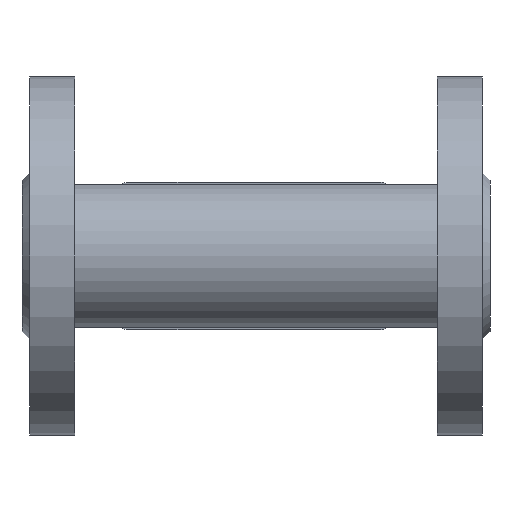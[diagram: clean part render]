
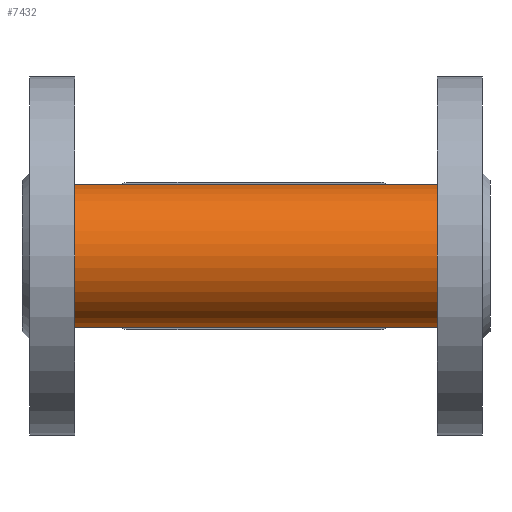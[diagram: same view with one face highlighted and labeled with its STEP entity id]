
A CAD part, front view. The second image highlights one B-rep face of the part: STEP entity #7432.
In plain terms, the highlighted cylindrical face has radius 19 mm (diameter 38 mm), a full revolution.
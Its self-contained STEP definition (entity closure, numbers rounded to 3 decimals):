
#2098=LINE('',#36052,#4078);
#2099=LINE('',#36058,#4079);
#4078=VECTOR('',#29445,1.);
#4079=VECTOR('',#29450,1.);
#6297=ELLIPSE('',#27241,26.87,19.);
#6298=ELLIPSE('',#27242,26.87,19.);
#6299=ELLIPSE('',#27243,26.87,19.);
#6300=ELLIPSE('',#27244,26.87,19.);
#6311=CYLINDRICAL_SURFACE('',#27247,19.);
#6614=FACE_BOUND('',#11093,.T.);
#6615=FACE_BOUND('',#11094,.T.);
#6616=FACE_BOUND('',#11095,.T.);
#7432=ADVANCED_FACE('',(#6614,#6615,#6616),#6311,.T.);
#11093=EDGE_LOOP('',(#13137,#13138,#13139,#13140,#13141,#13142));
#11094=EDGE_LOOP('',(#13143));
#11095=EDGE_LOOP('',(#13144));
#13137=ORIENTED_EDGE('',*,*,#22774,.T.);
#13138=ORIENTED_EDGE('',*,*,#22775,.T.);
#13139=ORIENTED_EDGE('',*,*,#22776,.T.);
#13140=ORIENTED_EDGE('',*,*,#22777,.T.);
#13141=ORIENTED_EDGE('',*,*,#22778,.T.);
#13142=ORIENTED_EDGE('',*,*,#22779,.T.);
#13143=ORIENTED_EDGE('',*,*,#22780,.F.);
#13144=ORIENTED_EDGE('',*,*,#22781,.F.);
#20332=VERTEX_POINT('',#36048);
#20333=VERTEX_POINT('',#36049);
#20334=VERTEX_POINT('',#36051);
#20335=VERTEX_POINT('',#36053);
#20336=VERTEX_POINT('',#36055);
#20337=VERTEX_POINT('',#36057);
#20338=VERTEX_POINT('',#36060);
#20339=VERTEX_POINT('',#36062);
#22774=EDGE_CURVE('',#20332,#20333,#6297,.T.);
#22775=EDGE_CURVE('',#20333,#20334,#6298,.T.);
#22776=EDGE_CURVE('',#20334,#20335,#2098,.T.);
#22777=EDGE_CURVE('',#20335,#20336,#6299,.T.);
#22778=EDGE_CURVE('',#20336,#20337,#6300,.T.);
#22779=EDGE_CURVE('',#20337,#20332,#2099,.T.);
#22780=EDGE_CURVE('',#20338,#20338,#26372,.T.);
#22781=EDGE_CURVE('',#20339,#20339,#26373,.T.);
#26372=CIRCLE('',#27245,19.);
#26373=CIRCLE('',#27246,19.);
#27241=AXIS2_PLACEMENT_3D('',#36047,#29441,#29442);
#27242=AXIS2_PLACEMENT_3D('',#36050,#29443,#29444);
#27243=AXIS2_PLACEMENT_3D('',#36054,#29446,#29447);
#27244=AXIS2_PLACEMENT_3D('',#36056,#29448,#29449);
#27245=AXIS2_PLACEMENT_3D('',#36059,#29451,#29452);
#27246=AXIS2_PLACEMENT_3D('',#36061,#29453,#29454);
#27247=AXIS2_PLACEMENT_3D('',#36063,#29455,#29456);
#29441=DIRECTION('',(-0.707,-0.707,0.));
#29442=DIRECTION('',(-0.707,0.707,0.));
#29443=DIRECTION('',(-0.707,-0.707,0.));
#29444=DIRECTION('',(-0.707,0.707,0.));
#29445=DIRECTION('',(1.,0.,0.));
#29446=DIRECTION('',(0.707,-0.707,0.));
#29447=DIRECTION('',(-0.707,-0.707,0.));
#29448=DIRECTION('',(0.707,-0.707,0.));
#29449=DIRECTION('',(-0.707,-0.707,0.));
#29450=DIRECTION('',(-1.,0.,0.));
#29451=DIRECTION('',(1.,0.,0.));
#29452=DIRECTION('',(0.,0.,1.));
#29453=DIRECTION('',(-1.,0.,0.));
#29454=DIRECTION('',(0.,0.,-1.));
#29455=DIRECTION('',(-1.,0.,0.));
#29456=DIRECTION('',(0.,0.,1.));
#36047=CARTESIAN_POINT('',(35.,-12.49,960.5));
#36048=CARTESIAN_POINT('',(20.,2.51,972.162));
#36049=CARTESIAN_POINT('',(16.,6.51,960.5));
#36050=CARTESIAN_POINT('',(35.,-12.49,960.5));
#36051=CARTESIAN_POINT('',(20.,2.51,948.838));
#36052=CARTESIAN_POINT('',(76.,2.51,948.838));
#36053=CARTESIAN_POINT('',(70.,2.51,948.838));
#36054=CARTESIAN_POINT('',(55.,-12.49,960.5));
#36055=CARTESIAN_POINT('',(74.,6.51,960.5));
#36056=CARTESIAN_POINT('',(55.,-12.49,960.5));
#36057=CARTESIAN_POINT('',(70.,2.51,972.162));
#36058=CARTESIAN_POINT('',(76.,2.51,972.162));
#36059=CARTESIAN_POINT('',(93.,-12.49,960.5));
#36060=CARTESIAN_POINT('',(93.,-12.49,979.5));
#36061=CARTESIAN_POINT('',(-3.,-12.49,960.5));
#36062=CARTESIAN_POINT('',(-3.,-12.49,941.5));
#36063=CARTESIAN_POINT('',(76.,-12.49,960.5));
